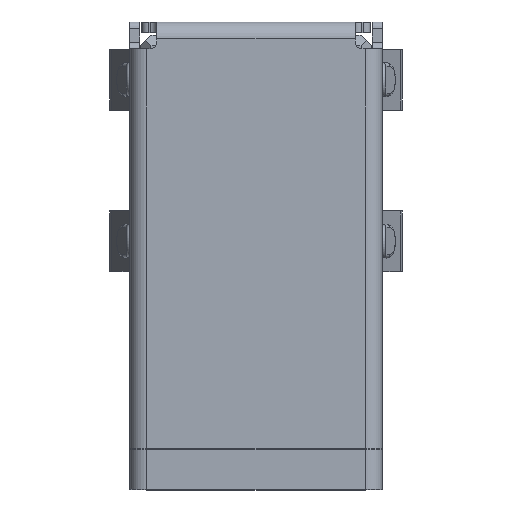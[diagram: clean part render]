
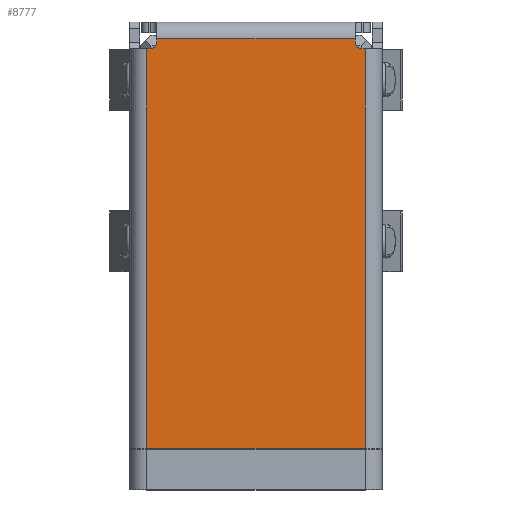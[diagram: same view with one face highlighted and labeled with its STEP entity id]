
A CAD part, top view. The second image highlights one B-rep face of the part: STEP entity #8777.
In plain terms, the highlighted planar face has unit normal (0, 0, 1).
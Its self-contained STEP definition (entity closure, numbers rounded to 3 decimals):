
#351=CARTESIAN_POINT('',(3.15,13.6,9.7));
#352=DIRECTION('',(0.,0.,-1.));
#353=DIRECTION('',(0.,-1.,0.));
#354=AXIS2_PLACEMENT_3D('',#351,#352,#353);
#677=DIRECTION('',(1.,0.,0.));
#678=VECTOR('',#677,6.5);
#679=CARTESIAN_POINT('',(-3.25,1.51,9.7));
#680=LINE('',#679,#678);
#681=DIRECTION('',(0.,-1.,0.));
#682=VECTOR('',#681,11.89);
#683=CARTESIAN_POINT('',(-3.25,13.4,9.7));
#684=LINE('',#683,#682);
#685=DIRECTION('',(1.,0.,0.));
#686=VECTOR('',#685,0.1);
#687=CARTESIAN_POINT('',(-3.25,13.4,9.7));
#688=LINE('',#687,#686);
#689=DIRECTION('',(0.,-1.,0.));
#690=VECTOR('',#689,0.1);
#691=CARTESIAN_POINT('',(-2.95,13.7,9.7));
#692=LINE('',#691,#690);
#693=DIRECTION('',(1.,0.,0.));
#694=VECTOR('',#693,5.9);
#695=CARTESIAN_POINT('',(-2.95,13.7,9.7));
#696=LINE('',#695,#694);
#697=DIRECTION('',(0.,-1.,0.));
#698=VECTOR('',#697,0.1);
#699=CARTESIAN_POINT('',(2.95,13.7,9.7));
#700=LINE('',#699,#698);
#701=DIRECTION('',(1.,0.,0.));
#702=VECTOR('',#701,0.1);
#703=CARTESIAN_POINT('',(3.15,13.4,9.7));
#704=LINE('',#703,#702);
#705=DIRECTION('',(0.,-1.,0.));
#706=VECTOR('',#705,11.89);
#707=CARTESIAN_POINT('',(3.25,13.4,9.7));
#708=LINE('',#707,#706);
#1225=CARTESIAN_POINT('',(-3.15,13.6,9.7));
#1226=DIRECTION('',(0.,0.,-1.));
#1227=DIRECTION('',(1.,0.,0.));
#1228=AXIS2_PLACEMENT_3D('',#1225,#1226,#1227);
#6857=CARTESIAN_POINT('',(3.25,13.4,9.7));
#6859=VERTEX_POINT('',#6857);
#6860=CARTESIAN_POINT('',(-3.25,13.4,9.7));
#6862=VERTEX_POINT('',#6860);
#6865=CARTESIAN_POINT('',(2.95,13.7,9.7));
#6867=VERTEX_POINT('',#6865);
#6869=CARTESIAN_POINT('',(-2.95,13.7,9.7));
#6871=VERTEX_POINT('',#6869);
#6912=CARTESIAN_POINT('',(3.15,13.4,9.7));
#6914=VERTEX_POINT('',#6912);
#6916=CARTESIAN_POINT('',(2.95,13.6,9.7));
#6918=VERTEX_POINT('',#6916);
#6937=CARTESIAN_POINT('',(-3.15,13.4,9.7));
#6939=VERTEX_POINT('',#6937);
#6941=CARTESIAN_POINT('',(-2.95,13.6,9.7));
#6943=VERTEX_POINT('',#6941);
#7528=CARTESIAN_POINT('',(-3.25,1.51,9.7));
#7529=CARTESIAN_POINT('',(3.25,1.51,9.7));
#7530=VERTEX_POINT('',#7528);
#7531=VERTEX_POINT('',#7529);
#8754=CARTESIAN_POINT('',(-3.75,1.5,9.7));
#8755=DIRECTION('',(0.,0.,1.));
#8756=DIRECTION('',(1.,0.,0.));
#8757=AXIS2_PLACEMENT_3D('',#8754,#8755,#8756);
#8758=PLANE('',#8757);
#8759=ORIENTED_EDGE('',*,*,#8178,.F.);
#8761=ORIENTED_EDGE('',*,*,#8760,.F.);
#8763=ORIENTED_EDGE('',*,*,#8762,.T.);
#8765=ORIENTED_EDGE('',*,*,#8764,.F.);
#8767=ORIENTED_EDGE('',*,*,#8766,.F.);
#8769=ORIENTED_EDGE('',*,*,#8768,.T.);
#8771=ORIENTED_EDGE('',*,*,#8770,.T.);
#8772=ORIENTED_EDGE('',*,*,#8377,.F.);
#8773=ORIENTED_EDGE('',*,*,#8415,.T.);
#8774=ORIENTED_EDGE('',*,*,#8735,.T.);
#8775=EDGE_LOOP('',(#8759,#8761,#8763,#8765,#8767,#8769,#8771,#8772,#8773,
#8774));
#8776=FACE_OUTER_BOUND('',#8775,.F.);
#355=CIRCLE('',#354,0.2);
#1229=CIRCLE('',#1228,0.2);
#8178=EDGE_CURVE('',#7530,#7531,#680,.T.);
#8377=EDGE_CURVE('',#6914,#6918,#355,.T.);
#8415=EDGE_CURVE('',#6914,#6859,#704,.T.);
#8735=EDGE_CURVE('',#6859,#7531,#708,.T.);
#8760=EDGE_CURVE('',#6862,#7530,#684,.T.);
#8762=EDGE_CURVE('',#6862,#6939,#688,.T.);
#8764=EDGE_CURVE('',#6943,#6939,#1229,.T.);
#8766=EDGE_CURVE('',#6871,#6943,#692,.T.);
#8768=EDGE_CURVE('',#6871,#6867,#696,.T.);
#8770=EDGE_CURVE('',#6867,#6918,#700,.T.);
#8777=ADVANCED_FACE('',(#8776),#8758,.T.);
